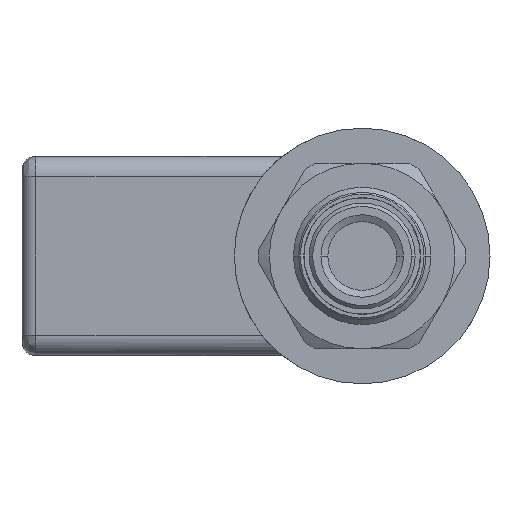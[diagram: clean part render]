
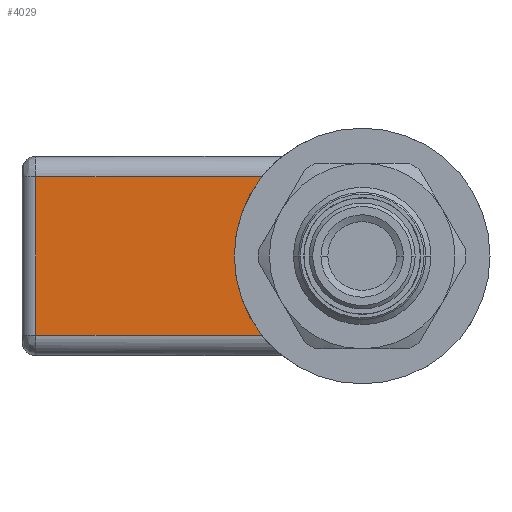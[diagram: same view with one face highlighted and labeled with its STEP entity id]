
A CAD part, left-side view. The second image highlights one B-rep face of the part: STEP entity #4029.
In plain terms, the highlighted planar face has unit normal (-1, 0, 0).
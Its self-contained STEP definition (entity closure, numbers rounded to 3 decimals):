
#1318=DIRECTION('',(0.,0.,-1.));
#1319=VECTOR('',#1318,23.);
#1320=CARTESIAN_POINT('',(11.5,47.5,11.5));
#1321=LINE('',#1320,#1319);
#1357=DIRECTION('',(0.,1.,0.));
#1358=VECTOR('',#1357,32.881);
#1359=CARTESIAN_POINT('',(11.5,14.619,11.5));
#1360=LINE('',#1359,#1358);
#1361=CARTESIAN_POINT('',(11.5,0.,0.));
#1362=DIRECTION('',(-1.,0.,0.));
#1363=DIRECTION('',(0.,0.786,0.618));
#1364=AXIS2_PLACEMENT_3D('',#1361,#1362,#1363);
#1366=CARTESIAN_POINT('',(11.5,0.,0.));
#1367=DIRECTION('',(-1.,0.,0.));
#1368=DIRECTION('',(0.,1.,0.));
#1369=AXIS2_PLACEMENT_3D('',#1366,#1367,#1368);
#1460=DIRECTION('',(0.,-1.,0.));
#1461=VECTOR('',#1460,32.881);
#1462=CARTESIAN_POINT('',(11.5,47.5,-11.5));
#1463=LINE('',#1462,#1461);
#2218=CARTESIAN_POINT('',(11.5,18.6,0.));
#2219=VERTEX_POINT('',#2218);
#2220=CARTESIAN_POINT('',(11.5,14.619,11.5));
#2221=VERTEX_POINT('',#2220);
#2244=CARTESIAN_POINT('',(11.5,47.5,-11.5));
#2245=VERTEX_POINT('',#2244);
#2246=CARTESIAN_POINT('',(11.5,47.5,11.5));
#2247=VERTEX_POINT('',#2246);
#2248=CARTESIAN_POINT('',(11.5,14.619,-11.5));
#2249=VERTEX_POINT('',#2248);
#4015=CARTESIAN_POINT('',(11.5,29.5,-11.5));
#4016=DIRECTION('',(-1.,0.,0.));
#4017=DIRECTION('',(0.,0.,1.));
#4018=AXIS2_PLACEMENT_3D('',#4015,#4016,#4017);
#4019=PLANE('',#4018);
#4020=ORIENTED_EDGE('',*,*,#3971,.F.);
#4021=ORIENTED_EDGE('',*,*,#4010,.F.);
#4022=ORIENTED_EDGE('',*,*,#3836,.T.);
#4024=ORIENTED_EDGE('',*,*,#4023,.T.);
#4026=ORIENTED_EDGE('',*,*,#4025,.F.);
#4027=EDGE_LOOP('',(#4020,#4021,#4022,#4024,#4026));
#4028=FACE_OUTER_BOUND('',#4027,.F.);
#1365=CIRCLE('',#1364,18.6);
#1370=CIRCLE('',#1369,18.6);
#3836=EDGE_CURVE('',#2221,#2219,#1365,.T.);
#3971=EDGE_CURVE('',#2247,#2245,#1321,.T.);
#4010=EDGE_CURVE('',#2221,#2247,#1360,.T.);
#4023=EDGE_CURVE('',#2219,#2249,#1370,.T.);
#4025=EDGE_CURVE('',#2245,#2249,#1463,.T.);
#4029=ADVANCED_FACE('',(#4028),#4019,.T.);
